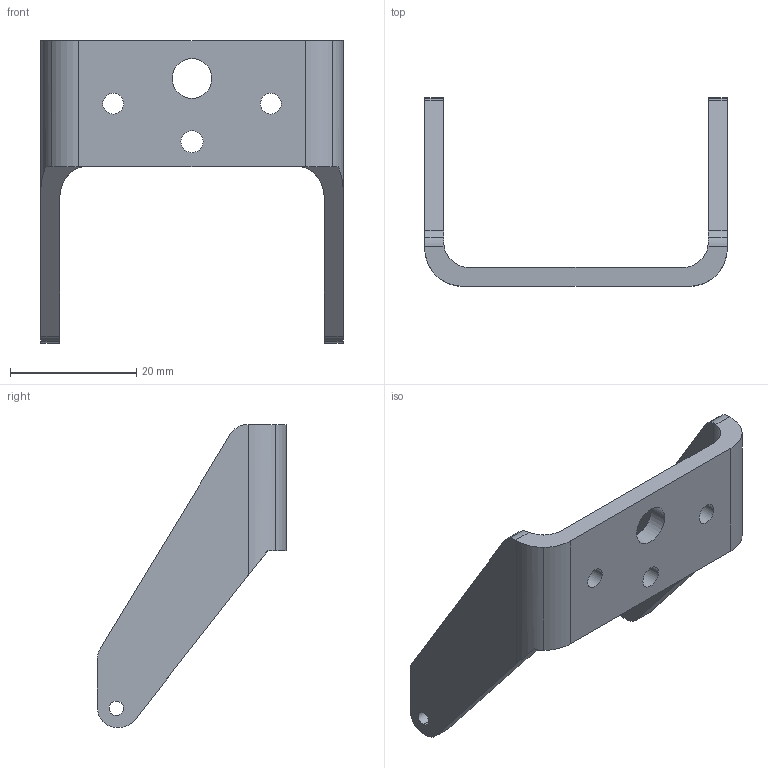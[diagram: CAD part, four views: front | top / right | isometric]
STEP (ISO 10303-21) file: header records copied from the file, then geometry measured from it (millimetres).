
FILE_DESCRIPTION (( 'STEP AP214' ), '1' );
FILE_NAME ('exploreHD-mounting-bracket.STEP', '2025-06-17T19:12:08', ( '' ), ( '' ), 'SwSTEP 2.0', 'SolidWorks 2024', '' );
FILE_SCHEMA (( 'AUTOMOTIVE_DESIGN' ));
Length unit declared in the file: millimetre
Products named in the file (1): exploreHD-mounting-bracket
Bounding box: 48 x 30 x 48 mm (x, y, z)
Volume: 6036 mm3; surface area: 5025.3 mm2
Topology: 1 solids, 1 shells, 52 faces, 148 edges, 98 vertices
Faces by surface type: cylinder 36, plane 16
Entity records: 1773 total; most frequent: CARTESIAN_POINT 323, DIRECTION 314, ORIENTED_EDGE 296, EDGE_CURVE 148, AXIS2_PLACEMENT_3D 121, VERTEX_POINT 98, LINE 72, VECTOR 72
